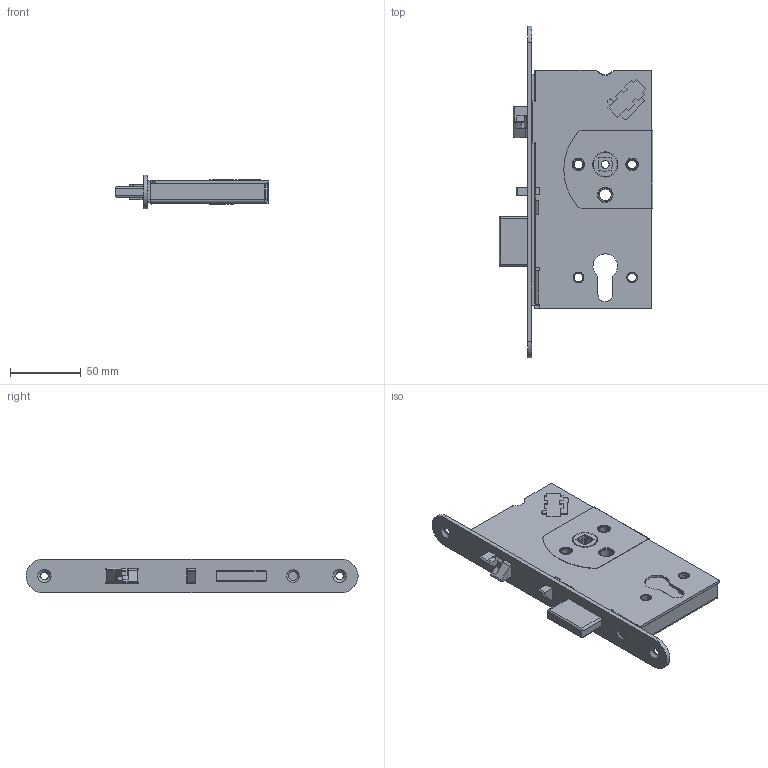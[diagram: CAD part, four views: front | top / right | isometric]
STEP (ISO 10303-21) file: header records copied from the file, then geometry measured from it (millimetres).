
FILE_DESCRIPTION (( 'STEP AP203' ), '1' );
FILE_NAME ('EL560-55-SW-OSA.STEP', '2018-01-12T10:27:49', ( '' ), ( '' ), 'SwSTEP 2.0', 'SolidWorks 2014', '' );
FILE_SCHEMA (( 'CONFIG_CONTROL_DESIGN' ));
Length unit declared in the file: millimetre
Products named in the file (1): EL560-55-SW-OSA
Bounding box: 108.58 x 235 x 24 mm (x, y, z)
Volume: 90540 mm3; surface area: 102131.5 mm2
Topology: 13 solids, 13 shells, 597 faces, 1519 edges, 958 vertices
Faces by surface type: plane 314, cylinder 244, cone 18, bspline 8, sphere 8, torus 5
Entity records: 18365 total; most frequent: CARTESIAN_POINT 3459, DIRECTION 3180, ORIENTED_EDGE 3022, EDGE_CURVE 1511, AXIS2_PLACEMENT_3D 1119, VERTEX_POINT 958, VECTOR 942, LINE 942
